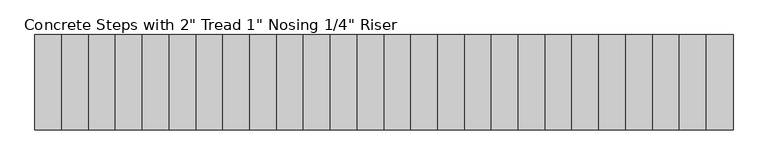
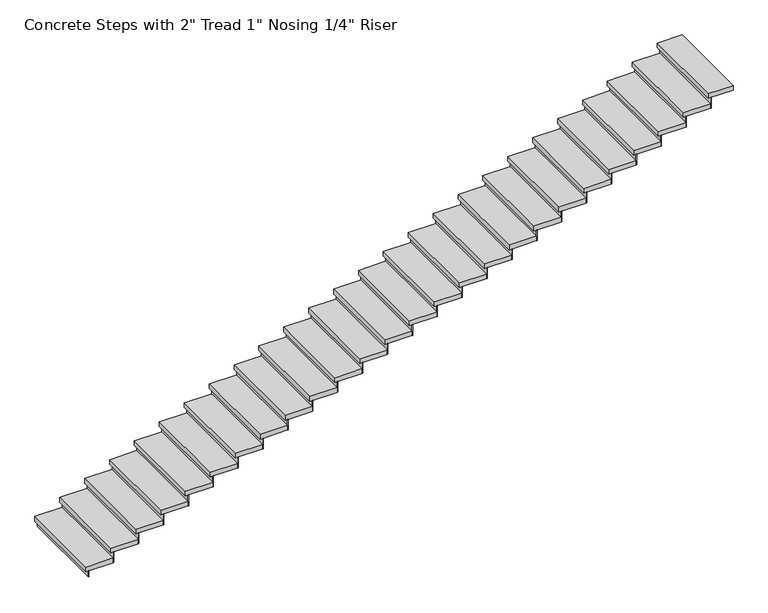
"""IFC4 building model written with IfcOpenShell, lengths in millimetres: stair flight geometry."""

from ifc_helpers import new_model, si_unit, frame, origin, origin_with_axes, place, context, project, spatial, polyline, outline, extrude, source, transform, mapped, element, save


def stair_flight_a6c8eb01(model_context):
    return source(origin(), model_context, "Body", "SweptSolid", [
        extrude(outline(polyline([(-13769.987319, 22856.1216942), (-13776.337319, 22856.1216942), (-13776.337319, 23770.5216942), (-13769.987319, 23770.5216942), (-13769.987319, 22856.1216942)])), origin_with_axes(), (0.0, 0.0, 1.0), 66.4307692),
        extrude(outline(polyline([(-13518.527319, 23770.5216942), (-13518.527319, 22856.1216942), (-13801.737319, 22856.1216942), (-13801.737319, 23770.5216942), (-13518.527319, 23770.5216942)])), frame((0.0, 0.0, 66.4307692), z_axis=(0.0, 0.0, 1.0), x_axis=(1.0, 0.0, 0.0)), (0.0, 0.0, 1.0), 50.8),
        extrude(outline(polyline([(-13512.177319, 22856.1216942), (-13518.527319, 22856.1216942), (-13518.527319, 23770.5216942), (-13512.177319, 23770.5216942), (-13512.177319, 22856.1216942)])), frame((0.0, 0.0, 66.4307692), z_axis=(0.0, 0.0, 1.0), x_axis=(1.0, 0.0, 0.0)), (0.0, 0.0, 1.0), 117.2307692),
        extrude(outline(polyline([(-13260.717319, 23770.5216942), (-13260.717319, 22856.1216942), (-13543.927319, 22856.1216942), (-13543.927319, 23770.5216942), (-13260.717319, 23770.5216942)])), frame((0.0, 0.0, 183.6615385), z_axis=(0.0, 0.0, 1.0), x_axis=(1.0, 0.0, 0.0)), (0.0, 0.0, 1.0), 50.8),
        extrude(outline(polyline([(-13254.367319, 22856.1216942), (-13260.717319, 22856.1216942), (-13260.717319, 23770.5216942), (-13254.367319, 23770.5216942), (-13254.367319, 22856.1216942)])), frame((0.0, 0.0, 183.6615385), z_axis=(0.0, 0.0, 1.0), x_axis=(1.0, 0.0, 0.0)), (0.0, 0.0, 1.0), 117.2307692),
        extrude(outline(polyline([(-13002.907319, 23770.5216942), (-13002.907319, 22856.1216942), (-13286.117319, 22856.1216942), (-13286.117319, 23770.5216942), (-13002.907319, 23770.5216942)])), frame((0.0, 0.0, 300.8923077), z_axis=(0.0, 0.0, 1.0), x_axis=(1.0, 0.0, 0.0)), (0.0, 0.0, 1.0), 50.8),
        extrude(outline(polyline([(-12996.557319, 22856.1216942), (-13002.907319, 22856.1216942), (-13002.907319, 23770.5216942), (-12996.557319, 23770.5216942), (-12996.557319, 22856.1216942)])), frame((0.0, 0.0, 300.8923077), z_axis=(0.0, 0.0, 1.0), x_axis=(1.0, 0.0, 0.0)), (0.0, 0.0, 1.0), 117.2307692),
        extrude(outline(polyline([(-12745.097319, 23770.5216942), (-12745.097319, 22856.1216942), (-13028.307319, 22856.1216942), (-13028.307319, 23770.5216942), (-12745.097319, 23770.5216942)])), frame((0.0, 0.0, 418.1230769), z_axis=(0.0, 0.0, 1.0), x_axis=(1.0, 0.0, 0.0)), (0.0, 0.0, 1.0), 50.8),
        extrude(outline(polyline([(-12738.747319, 22856.1216942), (-12745.097319, 22856.1216942), (-12745.097319, 23770.5216942), (-12738.747319, 23770.5216942), (-12738.747319, 22856.1216942)])), frame((0.0, 0.0, 418.1230769), z_axis=(0.0, 0.0, 1.0), x_axis=(1.0, 0.0, 0.0)), (0.0, 0.0, 1.0), 117.2307692),
        extrude(outline(polyline([(-12487.287319, 23770.5216942), (-12487.287319, 22856.1216942), (-12770.497319, 22856.1216942), (-12770.497319, 23770.5216942), (-12487.287319, 23770.5216942)])), frame((0.0, 0.0, 535.3538462), z_axis=(0.0, 0.0, 1.0), x_axis=(1.0, 0.0, 0.0)), (0.0, 0.0, 1.0), 50.8),
        extrude(outline(polyline([(-12480.937319, 22856.1216942), (-12487.287319, 22856.1216942), (-12487.287319, 23770.5216942), (-12480.937319, 23770.5216942), (-12480.937319, 22856.1216942)])), frame((0.0, 0.0, 535.3538462), z_axis=(0.0, 0.0, 1.0), x_axis=(1.0, 0.0, 0.0)), (0.0, 0.0, 1.0), 117.2307692),
        extrude(outline(polyline([(-12229.477319, 23770.5216942), (-12229.477319, 22856.1216942), (-12512.687319, 22856.1216942), (-12512.687319, 23770.5216942), (-12229.477319, 23770.5216942)])), frame((0.0, 0.0, 652.5846154), z_axis=(0.0, 0.0, 1.0), x_axis=(1.0, 0.0, 0.0)), (0.0, 0.0, 1.0), 50.8),
        extrude(outline(polyline([(-12223.127319, 22856.1216942), (-12229.477319, 22856.1216942), (-12229.477319, 23770.5216942), (-12223.127319, 23770.5216942), (-12223.127319, 22856.1216942)])), frame((0.0, 0.0, 652.5846154), z_axis=(0.0, 0.0, 1.0), x_axis=(1.0, 0.0, 0.0)), (0.0, 0.0, 1.0), 117.2307692),
        extrude(outline(polyline([(-11971.667319, 23770.5216942), (-11971.667319, 22856.1216942), (-12254.877319, 22856.1216942), (-12254.877319, 23770.5216942), (-11971.667319, 23770.5216942)])), frame((0.0, 0.0, 769.8153846), z_axis=(0.0, 0.0, 1.0), x_axis=(1.0, 0.0, 0.0)), (0.0, 0.0, 1.0), 50.8),
        extrude(outline(polyline([(-11965.317319, 22856.1216942), (-11971.667319, 22856.1216942), (-11971.667319, 23770.5216942), (-11965.317319, 23770.5216942), (-11965.317319, 22856.1216942)])), frame((0.0, 0.0, 769.8153846), z_axis=(0.0, 0.0, 1.0), x_axis=(1.0, 0.0, 0.0)), (0.0, 0.0, 1.0), 117.2307692),
        extrude(outline(polyline([(-11713.857319, 23770.5216942), (-11713.857319, 22856.1216942), (-11997.067319, 22856.1216942), (-11997.067319, 23770.5216942), (-11713.857319, 23770.5216942)])), frame((0.0, 0.0, 887.0461538), z_axis=(0.0, 0.0, 1.0), x_axis=(1.0, 0.0, 0.0)), (0.0, 0.0, 1.0), 50.8),
        extrude(outline(polyline([(-11707.507319, 22856.1216942), (-11713.857319, 22856.1216942), (-11713.857319, 23770.5216942), (-11707.507319, 23770.5216942), (-11707.507319, 22856.1216942)])), frame((0.0, 0.0, 887.0461538), z_axis=(0.0, 0.0, 1.0), x_axis=(1.0, 0.0, 0.0)), (0.0, 0.0, 1.0), 117.2307692),
        extrude(outline(polyline([(-11456.047319, 23770.5216942), (-11456.047319, 22856.1216942), (-11739.257319, 22856.1216942), (-11739.257319, 23770.5216942), (-11456.047319, 23770.5216942)])), frame((0.0, 0.0, 1004.2769231), z_axis=(0.0, 0.0, 1.0), x_axis=(1.0, 0.0, 0.0)), (0.0, 0.0, 1.0), 50.8),
        extrude(outline(polyline([(-11449.697319, 22856.1216942), (-11456.047319, 22856.1216942), (-11456.047319, 23770.5216942), (-11449.697319, 23770.5216942), (-11449.697319, 22856.1216942)])), frame((0.0, 0.0, 1004.2769231), z_axis=(0.0, 0.0, 1.0), x_axis=(1.0, 0.0, 0.0)), (0.0, 0.0, 1.0), 117.2307692),
        extrude(outline(polyline([(-11198.237319, 23770.5216942), (-11198.237319, 22856.1216942), (-11481.447319, 22856.1216942), (-11481.447319, 23770.5216942), (-11198.237319, 23770.5216942)])), frame((0.0, 0.0, 1121.5076923), z_axis=(0.0, 0.0, 1.0), x_axis=(1.0, 0.0, 0.0)), (0.0, 0.0, 1.0), 50.8),
        extrude(outline(polyline([(-11191.887319, 22856.1216942), (-11198.237319, 22856.1216942), (-11198.237319, 23770.5216942), (-11191.887319, 23770.5216942), (-11191.887319, 22856.1216942)])), frame((0.0, 0.0, 1121.5076923), z_axis=(0.0, 0.0, 1.0), x_axis=(1.0, 0.0, 0.0)), (0.0, 0.0, 1.0), 117.2307692),
        extrude(outline(polyline([(-10940.427319, 23770.5216942), (-10940.427319, 22856.1216942), (-11223.637319, 22856.1216942), (-11223.637319, 23770.5216942), (-10940.427319, 23770.5216942)])), frame((0.0, 0.0, 1238.7384615), z_axis=(0.0, 0.0, 1.0), x_axis=(1.0, 0.0, 0.0)), (0.0, 0.0, 1.0), 50.8),
        extrude(outline(polyline([(-10934.077319, 22856.1216942), (-10940.427319, 22856.1216942), (-10940.427319, 23770.5216942), (-10934.077319, 23770.5216942), (-10934.077319, 22856.1216942)])), frame((0.0, 0.0, 1238.7384615), z_axis=(0.0, 0.0, 1.0), x_axis=(1.0, 0.0, 0.0)), (0.0, 0.0, 1.0), 117.2307692),
        extrude(outline(polyline([(-10682.617319, 23770.5216942), (-10682.617319, 22856.1216942), (-10965.827319, 22856.1216942), (-10965.827319, 23770.5216942), (-10682.617319, 23770.5216942)])), frame((0.0, 0.0, 1355.9692308), z_axis=(0.0, 0.0, 1.0), x_axis=(1.0, 0.0, 0.0)), (0.0, 0.0, 1.0), 50.8),
        extrude(outline(polyline([(-10676.267319, 22856.1216942), (-10682.617319, 22856.1216942), (-10682.617319, 23770.5216942), (-10676.267319, 23770.5216942), (-10676.267319, 22856.1216942)])), frame((0.0, 0.0, 1355.9692308), z_axis=(0.0, 0.0, 1.0), x_axis=(1.0, 0.0, 0.0)), (0.0, 0.0, 1.0), 117.2307692),
        extrude(outline(polyline([(-10424.807319, 23770.5216942), (-10424.807319, 22856.1216942), (-10708.017319, 22856.1216942), (-10708.017319, 23770.5216942), (-10424.807319, 23770.5216942)])), frame((0.0, 0.0, 1473.2), z_axis=(0.0, 0.0, 1.0), x_axis=(1.0, 0.0, 0.0)), (0.0, 0.0, 1.0), 50.8),
        extrude(outline(polyline([(-10418.457319, 22856.1216942), (-10424.807319, 22856.1216942), (-10424.807319, 23770.5216942), (-10418.457319, 23770.5216942), (-10418.457319, 22856.1216942)])), frame((0.0, 0.0, 1473.2), z_axis=(0.0, 0.0, 1.0), x_axis=(1.0, 0.0, 0.0)), (0.0, 0.0, 1.0), 117.2307692),
        extrude(outline(polyline([(-10166.997319, 23770.5216942), (-10166.997319, 22856.1216942), (-10450.207319, 22856.1216942), (-10450.207319, 23770.5216942), (-10166.997319, 23770.5216942)])), frame((0.0, 0.0, 1590.4307692), z_axis=(0.0, 0.0, 1.0), x_axis=(1.0, 0.0, 0.0)), (0.0, 0.0, 1.0), 50.8),
        extrude(outline(polyline([(-10160.647319, 22856.1216942), (-10166.997319, 22856.1216942), (-10166.997319, 23770.5216942), (-10160.647319, 23770.5216942), (-10160.647319, 22856.1216942)])), frame((0.0, 0.0, 1590.4307692), z_axis=(0.0, 0.0, 1.0), x_axis=(1.0, 0.0, 0.0)), (0.0, 0.0, 1.0), 117.2307692),
        extrude(outline(polyline([(-9909.187319, 23770.5216942), (-9909.187319, 22856.1216942), (-10192.397319, 22856.1216942), (-10192.397319, 23770.5216942), (-9909.187319, 23770.5216942)])), frame((0.0, 0.0, 1707.6615385), z_axis=(0.0, 0.0, 1.0), x_axis=(1.0, 0.0, 0.0)), (0.0, 0.0, 1.0), 50.8),
        extrude(outline(polyline([(-9902.837319, 22856.1216942), (-9909.187319, 22856.1216942), (-9909.187319, 23770.5216942), (-9902.837319, 23770.5216942), (-9902.837319, 22856.1216942)])), frame((0.0, 0.0, 1707.6615385), z_axis=(0.0, 0.0, 1.0), x_axis=(1.0, 0.0, 0.0)), (0.0, 0.0, 1.0), 117.2307692),
        extrude(outline(polyline([(-9651.377319, 23770.5216942), (-9651.377319, 22856.1216942), (-9934.587319, 22856.1216942), (-9934.587319, 23770.5216942), (-9651.377319, 23770.5216942)])), frame((0.0, 0.0, 1824.8923077), z_axis=(0.0, 0.0, 1.0), x_axis=(1.0, 0.0, 0.0)), (0.0, 0.0, 1.0), 50.8),
        extrude(outline(polyline([(-9645.027319, 22856.1216942), (-9651.377319, 22856.1216942), (-9651.377319, 23770.5216942), (-9645.027319, 23770.5216942), (-9645.027319, 22856.1216942)])), frame((0.0, 0.0, 1824.8923077), z_axis=(0.0, 0.0, 1.0), x_axis=(1.0, 0.0, 0.0)), (0.0, 0.0, 1.0), 117.2307692),
        extrude(outline(polyline([(-9393.567319, 23770.5216942), (-9393.567319, 22856.1216942), (-9676.777319, 22856.1216942), (-9676.777319, 23770.5216942), (-9393.567319, 23770.5216942)])), frame((0.0, 0.0, 1942.1230769), z_axis=(0.0, 0.0, 1.0), x_axis=(1.0, 0.0, 0.0)), (0.0, 0.0, 1.0), 50.8),
        extrude(outline(polyline([(-9387.217319, 22856.1216942), (-9393.567319, 22856.1216942), (-9393.567319, 23770.5216942), (-9387.217319, 23770.5216942), (-9387.217319, 22856.1216942)])), frame((0.0, 0.0, 1942.1230769), z_axis=(0.0, 0.0, 1.0), x_axis=(1.0, 0.0, 0.0)), (0.0, 0.0, 1.0), 117.2307692),
        extrude(outline(polyline([(-9135.757319, 23770.5216942), (-9135.757319, 22856.1216942), (-9418.967319, 22856.1216942), (-9418.967319, 23770.5216942), (-9135.757319, 23770.5216942)])), frame((0.0, 0.0, 2059.3538462), z_axis=(0.0, 0.0, 1.0), x_axis=(1.0, 0.0, 0.0)), (0.0, 0.0, 1.0), 50.8),
        extrude(outline(polyline([(-9129.407319, 22856.1216942), (-9135.757319, 22856.1216942), (-9135.757319, 23770.5216942), (-9129.407319, 23770.5216942), (-9129.407319, 22856.1216942)])), frame((0.0, 0.0, 2059.3538462), z_axis=(0.0, 0.0, 1.0), x_axis=(1.0, 0.0, 0.0)), (0.0, 0.0, 1.0), 117.2307692),
        extrude(outline(polyline([(-8877.947319, 23770.5216942), (-8877.947319, 22856.1216942), (-9161.157319, 22856.1216942), (-9161.157319, 23770.5216942), (-8877.947319, 23770.5216942)])), frame((0.0, 0.0, 2176.5846154), z_axis=(0.0, 0.0, 1.0), x_axis=(1.0, 0.0, 0.0)), (0.0, 0.0, 1.0), 50.8),
        extrude(outline(polyline([(-8871.597319, 22856.1216942), (-8877.947319, 22856.1216942), (-8877.947319, 23770.5216942), (-8871.597319, 23770.5216942), (-8871.597319, 22856.1216942)])), frame((0.0, 0.0, 2176.5846154), z_axis=(0.0, 0.0, 1.0), x_axis=(1.0, 0.0, 0.0)), (0.0, 0.0, 1.0), 117.2307692),
        extrude(outline(polyline([(-8620.137319, 23770.5216942), (-8620.137319, 22856.1216942), (-8903.347319, 22856.1216942), (-8903.347319, 23770.5216942), (-8620.137319, 23770.5216942)])), frame((0.0, 0.0, 2293.8153846), z_axis=(0.0, 0.0, 1.0), x_axis=(1.0, 0.0, 0.0)), (0.0, 0.0, 1.0), 50.8),
        extrude(outline(polyline([(-8613.787319, 22856.1216942), (-8620.137319, 22856.1216942), (-8620.137319, 23770.5216942), (-8613.787319, 23770.5216942), (-8613.787319, 22856.1216942)])), frame((0.0, 0.0, 2293.8153846), z_axis=(0.0, 0.0, 1.0), x_axis=(1.0, 0.0, 0.0)), (0.0, 0.0, 1.0), 117.2307692),
        extrude(outline(polyline([(-8362.327319, 23770.5216942), (-8362.327319, 22856.1216942), (-8645.537319, 22856.1216942), (-8645.537319, 23770.5216942), (-8362.327319, 23770.5216942)])), frame((0.0, 0.0, 2411.0461538), z_axis=(0.0, 0.0, 1.0), x_axis=(1.0, 0.0, 0.0)), (0.0, 0.0, 1.0), 50.8),
        extrude(outline(polyline([(-8355.977319, 22856.1216942), (-8362.327319, 22856.1216942), (-8362.327319, 23770.5216942), (-8355.977319, 23770.5216942), (-8355.977319, 22856.1216942)])), frame((0.0, 0.0, 2411.0461538), z_axis=(0.0, 0.0, 1.0), x_axis=(1.0, 0.0, 0.0)), (0.0, 0.0, 1.0), 117.2307692),
        extrude(outline(polyline([(-8104.517319, 23770.5216942), (-8104.517319, 22856.1216942), (-8387.727319, 22856.1216942), (-8387.727319, 23770.5216942), (-8104.517319, 23770.5216942)])), frame((0.0, 0.0, 2528.2769231), z_axis=(0.0, 0.0, 1.0), x_axis=(1.0, 0.0, 0.0)), (0.0, 0.0, 1.0), 50.8),
        extrude(outline(polyline([(-8098.167319, 22856.1216942), (-8104.517319, 22856.1216942), (-8104.517319, 23770.5216942), (-8098.167319, 23770.5216942), (-8098.167319, 22856.1216942)])), frame((0.0, 0.0, 2528.2769231), z_axis=(0.0, 0.0, 1.0), x_axis=(1.0, 0.0, 0.0)), (0.0, 0.0, 1.0), 117.2307692),
        extrude(outline(polyline([(-7846.707319, 23770.5216942), (-7846.707319, 22856.1216942), (-8129.917319, 22856.1216942), (-8129.917319, 23770.5216942), (-7846.707319, 23770.5216942)])), frame((0.0, 0.0, 2645.5076923), z_axis=(0.0, 0.0, 1.0), x_axis=(1.0, 0.0, 0.0)), (0.0, 0.0, 1.0), 50.8),
        extrude(outline(polyline([(-7840.357319, 22856.1216942), (-7846.707319, 22856.1216942), (-7846.707319, 23770.5216942), (-7840.357319, 23770.5216942), (-7840.357319, 22856.1216942)])), frame((0.0, 0.0, 2645.5076923), z_axis=(0.0, 0.0, 1.0), x_axis=(1.0, 0.0, 0.0)), (0.0, 0.0, 1.0), 117.2307692),
        extrude(outline(polyline([(-7588.897319, 23770.5216942), (-7588.897319, 22856.1216942), (-7872.107319, 22856.1216942), (-7872.107319, 23770.5216942), (-7588.897319, 23770.5216942)])), frame((0.0, 0.0, 2762.7384615), z_axis=(0.0, 0.0, 1.0), x_axis=(1.0, 0.0, 0.0)), (0.0, 0.0, 1.0), 50.8),
        extrude(outline(polyline([(-7582.547319, 22856.1216942), (-7588.897319, 22856.1216942), (-7588.897319, 23770.5216942), (-7582.547319, 23770.5216942), (-7582.547319, 22856.1216942)])), frame((0.0, 0.0, 2762.7384615), z_axis=(0.0, 0.0, 1.0), x_axis=(1.0, 0.0, 0.0)), (0.0, 0.0, 1.0), 117.2307692),
        extrude(outline(polyline([(-7331.087319, 23770.5216942), (-7331.087319, 22856.1216942), (-7614.297319, 22856.1216942), (-7614.297319, 23770.5216942), (-7331.087319, 23770.5216942)])), frame((0.0, 0.0, 2879.9692308), z_axis=(0.0, 0.0, 1.0), x_axis=(1.0, 0.0, 0.0)), (0.0, 0.0, 1.0), 50.8),
        extrude(outline(polyline([(-7324.737319, 22856.1216942), (-7331.087319, 22856.1216942), (-7331.087319, 23770.5216942), (-7324.737319, 23770.5216942), (-7324.737319, 22856.1216942)])), frame((0.0, 0.0, 2879.9692308), z_axis=(0.0, 0.0, 1.0), x_axis=(1.0, 0.0, 0.0)), (0.0, 0.0, 1.0), 117.2307692),
        extrude(outline(polyline([(-7098.677319, 23770.5216942), (-7098.677319, 22856.1216942), (-7356.487319, 22856.1216942), (-7356.487319, 23770.5216942), (-7098.677319, 23770.5216942)])), frame((0.0, 0.0, 2997.2), z_axis=(0.0, 0.0, 1.0), x_axis=(1.0, 0.0, 0.0)), (0.0, 0.0, 1.0), 50.8),
    ])


if __name__ == "__main__":
    model = new_model("IFC4")
    model_context = context("Model", 3, world=origin())
    ifc_project = project(units=[si_unit("LENGTHUNIT", "METRE", prefix="MILLI")], contexts=[model_context])
    site = spatial("IfcSite", under=ifc_project)
    building = spatial("IfcBuilding", under=site)
    placement = place(None, origin())
    stair_flight_shape = stair_flight_a6c8eb01(model_context)
    element("IfcStairFlight", 1, ObjectType="Concrete Steps with 2\" Tread 1\" Nosing 1/4\" Riser", at=placement, inside=building, context=model_context, shape_type="MappedRepresentation", body=[
        mapped(stair_flight_shape, transform((0.0, 0.0, 0.0), x_axis=(1.0, 0.0, 0.0), y_axis=(0.0, 1.0, 0.0), z_axis=(0.0, 0.0, 1.0))),
    ])
    save(model, "model.ifc")
